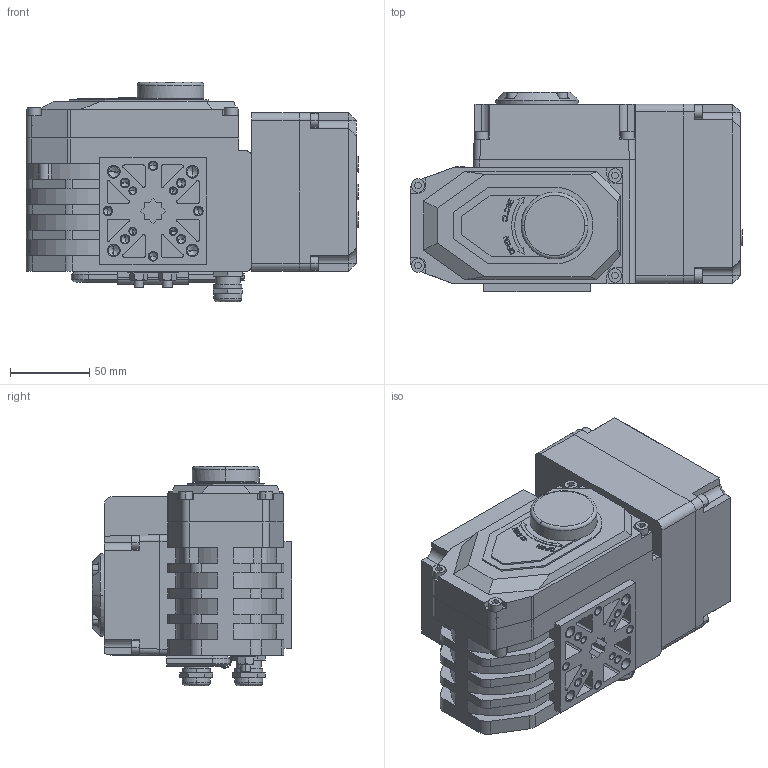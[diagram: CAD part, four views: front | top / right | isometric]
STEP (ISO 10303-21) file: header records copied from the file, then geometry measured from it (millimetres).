
FILE_DESCRIPTION((''),'2;1');
FILE_NAME('ELECTROPRIVOD_WITH_DISPLAY_ASM','2024-09-01T',('AMD'),(''),'PRO/ENGINEER BY PARAMETRIC TECHNOLOGY CORPORATION, 2008020','PRO/ENGINEER BY PARAMETRIC TECHNOLOGY CORPORATION, 2008020','');
FILE_SCHEMA(('CONFIG_CONTROL_DESIGN'));
Length unit declared in the file: millimetre
Products named in the file (13): DET_1; V-11738-M5; V-11738-M4; DET_2; KREPLENIE; KLUCH; DET_3; G-5915-M6; ELECTROPRIVOD_ASM; DET_4; DET_5; DISPLAY_ASM; ELECTROPRIVOD_WITH_DISPLAY_ASM
Assembly tree (27 placements, depth 3):
  ELECTROPRIVOD_WITH_DISPLAY_ASM
    ELECTROPRIVOD_ASM
      DET_1
      V-11738-M5  x8
      V-11738-M4  x4
      DET_2
      KREPLENIE
      KLUCH
      DET_3
      G-5915-M6  x2
    DISPLAY_ASM
      DET_4
      DET_5
      V-11738-M5  x4
Bounding box: 209 x 125.5 x 138 mm (x, y, z)
Volume: 2070221.6 mm3; surface area: 227122 mm2
Topology: 25 solids, 59 shells, 2126 faces, 5683 edges, 3762 vertices
Faces by surface type: plane 1456, cylinder 306, extrusion 300, cone 58, torus 6
Entity records: 59813 total; most frequent: CARTESIAN_POINT 12896, ORIENTED_EDGE 10070, DIRECTION 8537, EDGE_CURVE 5075, VECTOR 4223, LINE 3923, VERTEX_POINT 3370, AXIS2_PLACEMENT_3D 2157
